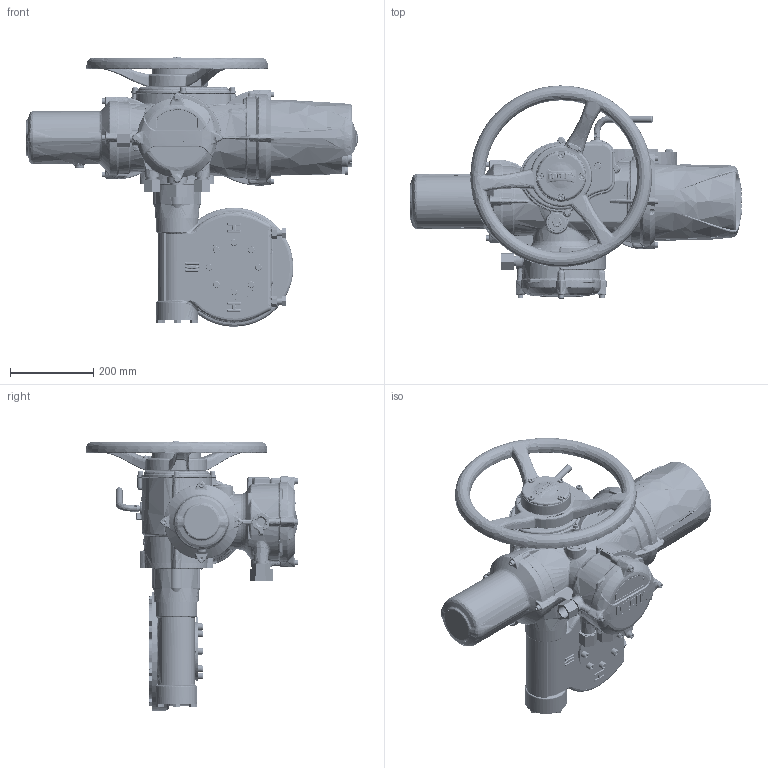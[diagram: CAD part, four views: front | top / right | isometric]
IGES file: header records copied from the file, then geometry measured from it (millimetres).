
Start section: C
Global section: file name: II2THWIWD5STD-1.igs; native system: By Siemens PLM Incorporated; preprocessor: XPlus GENERIC/IGES 17.0.49; author: Author; organization: Title; date: 20150721.091109; units: millimetre
Bounding box: 795.75 x 510.26 x 645.63 mm (x, y, z)
Surface area: 1603739.2 mm2 (no closed solid volume)
Topology: 0 solids, 0 shells, 7180 faces, 39654 edges, 39347 vertices
Faces by surface type: bspline 7180
